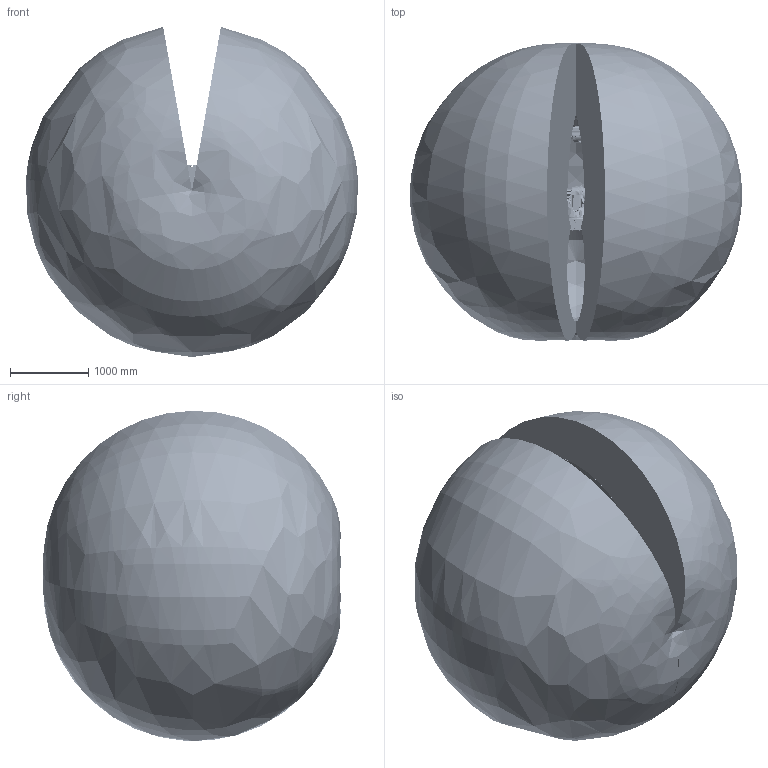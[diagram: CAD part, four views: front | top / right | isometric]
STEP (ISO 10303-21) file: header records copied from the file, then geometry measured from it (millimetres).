
FILE_DESCRIPTION((''),'2;1');
FILE_NAME('R6-2100_ASM','2023-10-16T15:27:47',('zty'),(''),'CREO PARAMETRIC BY PTC INC, 2018260','CREO PARAMETRIC BY PTC INC, 2018260','');
FILE_SCHEMA(('CONFIG_CONTROL_DESIGN','SHAPE_APPEARANCE_LAYERS_GROUPS'));
Products named in the file (11): R6-2100_BASE; R6-2100_JOINT1; R6-2100_JOINT2; R6-2100_JOINT3; R6-2100_JOINT4; R6-2100_JOINT5; R6-2100_JOINT6; R6-2100_CABLE; R6-2100_RANGE; R6-2100_RANGE_2; R6-2100_ASM
Assembly tree (10 placements, depth 2):
  R6-2100_ASM
    R6-2100_BASE
    R6-2100_JOINT1
    R6-2100_JOINT2
    R6-2100_JOINT3
    R6-2100_JOINT4
    R6-2100_JOINT5
    R6-2100_JOINT6
    R6-2100_CABLE
    R6-2100_RANGE
    R6-2100_RANGE_2
Bounding box: 4230.72 x 3790.64 x 4209.45 mm (x, y, z)
Volume: 33419217526.9 mm3; surface area: 87624712.5 mm2
Topology: 10 solids, 110 shells, 10918 faces, 27081 edges, 16525 vertices
Faces by surface type: cylinder 3274, plane 2878, bspline 2376, torus 1220, cone 975, sphere 188, extrusion 7
Entity records: 470296 total; most frequent: CARTESIAN_POINT 209053, ORIENTED_EDGE 53278, DIRECTION 46691, EDGE_CURVE 26639, AXIS2_PLACEMENT_3D 18636, VERTEX_POINT 16523, EDGE_LOOP 11694, FACE_OUTER_BOUND 10918
